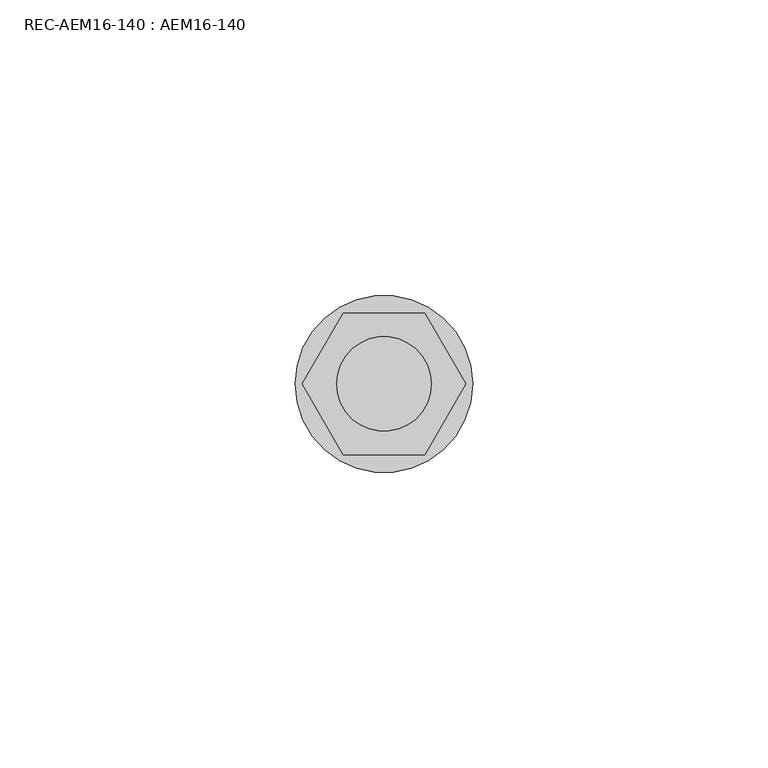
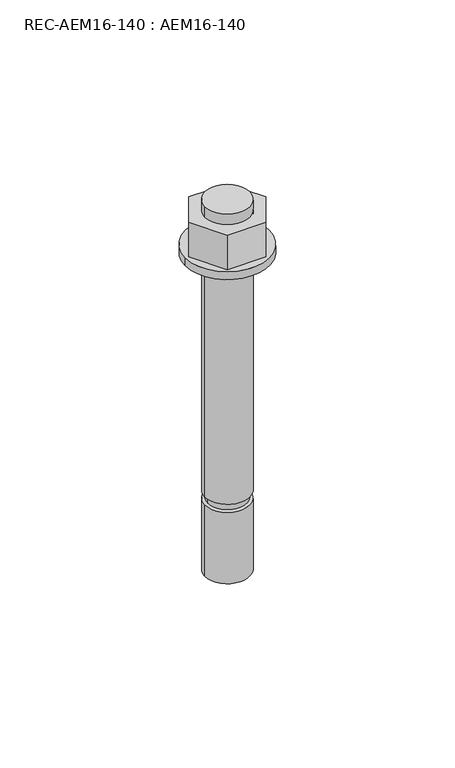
"""IFC4 building model written with IfcOpenShell, lengths in millimetres: fastener geometry, REC-AEM16-140 : AEM16-140."""

from ifc_helpers import new_model, si_unit, point, frame, origin, origin_with_axes, origin_2d, place, context, project, spatial, polyline, circle_curve, trimmed, segment, composite_curve, outline, extrude, source, transform, mapped, element, save


def rec_aem16_140_aem16_140_c98ec31b(model_context):
    return source(origin(), model_context, "Body", "SweptSolid", [
        extrude(outline(polyline([(-13.8564065, 0.0), (-6.9282032, 12.0), (6.9282032, 12.0), (13.8564065, 0.0), (6.9282032, -12.0), (-6.9282032, -12.0), (-13.8564065, 0.0)]), holes=[composite_curve([segment(trimmed(circle_curve(origin_2d(), 8.0), [point((-8.0, 0.0))], [point((8.0, 0.0))], True, "CARTESIAN"), True, "CONTINUOUS"), segment(trimmed(circle_curve(origin_2d(), 8.0), [point((8.0, 0.0))], [point((-8.0, 0.0))], True, "CARTESIAN"), True, "CONTINUOUS")], self_intersect=False)]), frame((0.0, 0.0, 3.0), z_axis=(0.0, 0.0, 1.0), x_axis=(1.0, 0.0, 0.0)), (0.0, 0.0, 1.0), 13.0),
        extrude(outline(composite_curve([segment(trimmed(circle_curve(origin_2d(), 15.0), [point((-15.0, 0.0))], [point((15.0, 0.0))], False, "CARTESIAN"), True, "CONTINUOUS"), segment(trimmed(circle_curve(origin_2d(), 15.0), [point((15.0, 0.0))], [point((-15.0, 0.0))], False, "CARTESIAN"), True, "CONTINUOUS")], self_intersect=False), holes=[composite_curve([segment(trimmed(circle_curve(origin_2d(), 8.5), [point((-8.5, 0.0))], [point((8.5, 0.0))], True, "CARTESIAN"), True, "CONTINUOUS"), segment(trimmed(circle_curve(origin_2d(), 8.5), [point((8.5, 0.0))], [point((-8.5, 0.0))], True, "CARTESIAN"), True, "CONTINUOUS")], self_intersect=False)]), origin_with_axes(), (0.0, 0.0, 1.0), 3.0),
        extrude(outline(composite_curve([segment(trimmed(circle_curve(origin_2d(), 8.0), [point((-8.0, 0.0))], [point((8.0, 0.0))], False, "CARTESIAN"), True, "CONTINUOUS"), segment(trimmed(circle_curve(origin_2d(), 8.0), [point((8.0, 0.0))], [point((-8.0, 0.0))], False, "CARTESIAN"), True, "CONTINUOUS")], self_intersect=False)), frame((0.0, 0.0, -90.0), z_axis=(0.0, 0.0, 1.0), x_axis=(1.0, 0.0, 0.0)), (0.0, 0.0, 1.0), 110.0),
        extrude(outline(composite_curve([segment(trimmed(circle_curve(origin_2d(), 8.0), [point((-8.0, 0.0))], [point((8.0, 0.0))], False, "CARTESIAN"), True, "CONTINUOUS"), segment(trimmed(circle_curve(origin_2d(), 8.0), [point((8.0, 0.0))], [point((-8.0, 0.0))], False, "CARTESIAN"), True, "CONTINUOUS")], self_intersect=False)), frame((0.0, 0.0, -120.0), z_axis=(0.0, 0.0, 1.0), x_axis=(1.0, 0.0, 0.0)), (0.0, 0.0, 1.0), 27.0),
        extrude(outline(composite_curve([segment(trimmed(circle_curve(origin_2d(), 7.0), [point((-7.0, 0.0))], [point((7.0, 0.0))], False, "CARTESIAN"), True, "CONTINUOUS"), segment(trimmed(circle_curve(origin_2d(), 7.0), [point((7.0, 0.0))], [point((-7.0, 0.0))], False, "CARTESIAN"), True, "CONTINUOUS")], self_intersect=False)), frame((0.0, 0.0, -93.0), z_axis=(0.0, 0.0, 1.0), x_axis=(1.0, 0.0, 0.0)), (0.0, 0.0, 1.0), 3.0),
    ])


if __name__ == "__main__":
    model = new_model("IFC4")
    model_context = context("Model", 3, world=origin())
    ifc_project = project(units=[si_unit("LENGTHUNIT", "METRE", prefix="MILLI")], contexts=[model_context])
    site = spatial("IfcSite", under=ifc_project)
    building = spatial("IfcBuilding", under=site)
    placement = place(None, origin())
    rec_aem16_140_aem16_140_shape = rec_aem16_140_aem16_140_c98ec31b(model_context)
    element("IfcFastener", 1, ObjectType="REC-AEM16-140 : AEM16-140", at=placement, inside=building, context=model_context, shape_type="MappedRepresentation", body=[
        mapped(rec_aem16_140_aem16_140_shape, transform((0.0, 0.0, 0.0), x_axis=(1.0, 0.0, 0.0), y_axis=(0.0, 1.0, 0.0), z_axis=(0.0, 0.0, 1.0))),
    ])
    save(model, "model.ifc")
